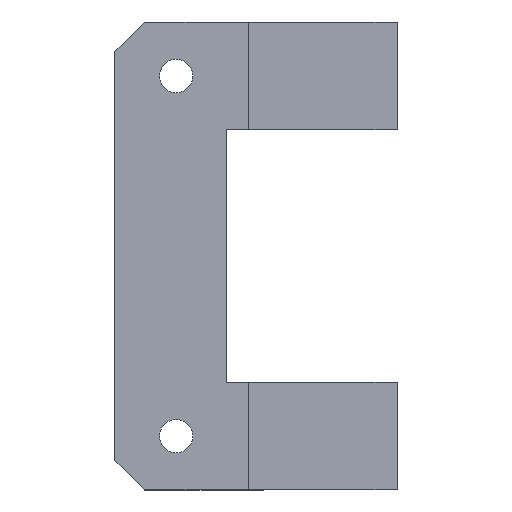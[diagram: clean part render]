
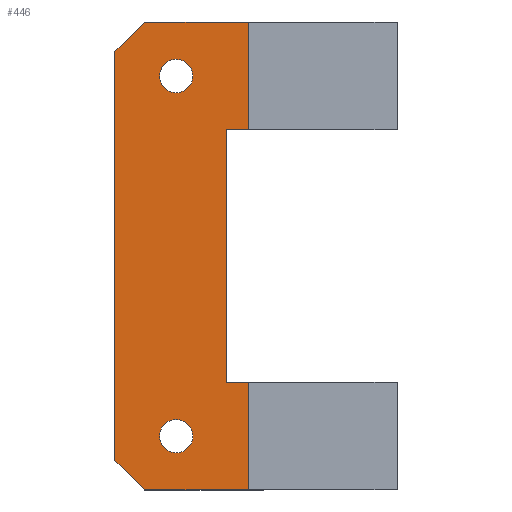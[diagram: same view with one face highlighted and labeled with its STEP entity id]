
A CAD part, top view. The second image highlights one B-rep face of the part: STEP entity #446.
In plain terms, the highlighted planar face has unit normal (0, 0, 1).
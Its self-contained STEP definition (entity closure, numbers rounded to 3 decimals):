
#17=FACE_BOUND('',#71,.T.);
#18=FACE_BOUND('',#72,.T.);
#20=CIRCLE('',#466,114.3);
#22=CIRCLE('',#479,114.3);
#46=FACE_OUTER_BOUND('',#70,.T.);
#70=EDGE_LOOP('',(#393,#394,#395,#396,#397,#398,#399,#400,#401,#402));
#71=EDGE_LOOP('',(#403));
#72=EDGE_LOOP('',(#404));
#75=LINE('',#605,#131);
#77=LINE('',#610,#133);
#87=LINE('',#629,#143);
#91=LINE('',#641,#147);
#100=LINE('',#659,#156);
#108=LINE('',#674,#164);
#109=LINE('',#678,#165);
#113=LINE('',#686,#169);
#123=LINE('',#708,#179);
#128=LINE('',#718,#184);
#131=VECTOR('',#493,25.4);
#133=VECTOR('',#497,25.4);
#143=VECTOR('',#509,25.4);
#147=VECTOR('',#521,25.4);
#156=VECTOR('',#540,25.4);
#164=VECTOR('',#550,25.4);
#165=VECTOR('',#553,25.4);
#169=VECTOR('',#559,25.4);
#179=VECTOR('',#579,25.4);
#184=VECTOR('',#594,25.4);
#187=VERTEX_POINT('',#602);
#188=VERTEX_POINT('',#604);
#189=VERTEX_POINT('',#608);
#190=VERTEX_POINT('',#609);
#198=VERTEX_POINT('',#627);
#200=VERTEX_POINT('',#633);
#202=VERTEX_POINT('',#639);
#212=VERTEX_POINT('',#672);
#213=VERTEX_POINT('',#676);
#214=VERTEX_POINT('',#677);
#217=VERTEX_POINT('',#685);
#224=VERTEX_POINT('',#704);
#227=EDGE_CURVE('',#188,#187,#75,.T.);
#229=EDGE_CURVE('',#189,#190,#77,.T.);
#239=EDGE_CURVE('',#189,#198,#87,.T.);
#242=EDGE_CURVE('',#200,#200,#20,.T.);
#245=EDGE_CURVE('',#202,#198,#91,.T.);
#254=EDGE_CURVE('',#188,#202,#100,.T.);
#262=EDGE_CURVE('',#187,#212,#108,.T.);
#263=EDGE_CURVE('',#213,#214,#109,.T.);
#267=EDGE_CURVE('',#213,#217,#113,.T.);
#278=EDGE_CURVE('',#224,#224,#22,.T.);
#279=EDGE_CURVE('',#212,#217,#123,.T.);
#284=EDGE_CURVE('',#190,#214,#128,.T.);
#393=ORIENTED_EDGE('',*,*,#263,.T.);
#394=ORIENTED_EDGE('',*,*,#284,.F.);
#395=ORIENTED_EDGE('',*,*,#229,.F.);
#396=ORIENTED_EDGE('',*,*,#239,.T.);
#397=ORIENTED_EDGE('',*,*,#245,.F.);
#398=ORIENTED_EDGE('',*,*,#254,.F.);
#399=ORIENTED_EDGE('',*,*,#227,.T.);
#400=ORIENTED_EDGE('',*,*,#262,.T.);
#401=ORIENTED_EDGE('',*,*,#279,.T.);
#402=ORIENTED_EDGE('',*,*,#267,.F.);
#403=ORIENTED_EDGE('',*,*,#242,.T.);
#404=ORIENTED_EDGE('',*,*,#278,.F.);
#424=PLANE('',#486);
#446=ADVANCED_FACE('',(#46,#17,#18),#424,.F.);
#466=AXIS2_PLACEMENT_3D('',#635,#515,#516);
#479=AXIS2_PLACEMENT_3D('',#706,#575,#576);
#486=AXIS2_PLACEMENT_3D('',#719,#595,#596);
#493=DIRECTION('',(0.,1.,0.));
#497=DIRECTION('',(-0.707,0.707,0.));
#509=DIRECTION('',(1.,0.,0.));
#515=DIRECTION('center_axis',(0.,0.,-1.));
#516=DIRECTION('ref_axis',(1.,0.,0.));
#521=DIRECTION('',(0.,-1.,0.));
#540=DIRECTION('',(1.,0.,0.));
#550=DIRECTION('',(1.,0.,0.));
#553=DIRECTION('',(-0.707,-0.707,0.));
#559=DIRECTION('',(1.,0.,0.));
#575=DIRECTION('center_axis',(0.,0.,1.));
#576=DIRECTION('ref_axis',(1.,0.,0.));
#579=DIRECTION('',(0.,1.,0.));
#594=DIRECTION('',(0.,1.,0.));
#595=DIRECTION('center_axis',(0.,0.,-1.));
#596=DIRECTION('ref_axis',(1.,0.,0.));
#602=CARTESIAN_POINT('',(-1118.894,1727.2,-855.664));
#604=CARTESIAN_POINT('',(-1118.894,0.,-855.664));
#605=CARTESIAN_POINT('',(-1118.894,863.6,-855.664));
#608=CARTESIAN_POINT('',(-1677.694,-736.6,-855.664));
#609=CARTESIAN_POINT('',(-1880.894,-533.4,-855.664));
#610=CARTESIAN_POINT('',(-1963.444,-450.85,-855.664));
#627=CARTESIAN_POINT('',(-966.494,-736.6,-855.664));
#629=CARTESIAN_POINT('',(-1880.894,-736.6,-855.664));
#633=CARTESIAN_POINT('',(-1576.094,-368.3,-855.664));
#635=CARTESIAN_POINT('Origin',(-1461.794,-368.3,-855.664));
#639=CARTESIAN_POINT('',(-966.494,0.,-855.664));
#641=CARTESIAN_POINT('',(-966.494,0.,-855.664));
#659=CARTESIAN_POINT('',(-1880.894,0.,-855.664));
#672=CARTESIAN_POINT('',(-966.494,1727.2,-855.664));
#674=CARTESIAN_POINT('',(-1880.894,1727.2,-855.664));
#676=CARTESIAN_POINT('',(-1677.694,2463.8,-855.664));
#677=CARTESIAN_POINT('',(-1880.894,2260.6,-855.664));
#678=CARTESIAN_POINT('',(-1963.444,2178.05,-855.664));
#685=CARTESIAN_POINT('',(-966.494,2463.8,-855.664));
#686=CARTESIAN_POINT('',(-1880.894,2463.8,-855.664));
#704=CARTESIAN_POINT('',(-1576.094,2095.5,-855.664));
#706=CARTESIAN_POINT('Origin',(-1461.794,2095.5,-855.664));
#708=CARTESIAN_POINT('',(-966.494,1727.2,-855.664));
#718=CARTESIAN_POINT('',(-1880.894,1727.2,-855.664));
#719=CARTESIAN_POINT('Origin',(-1880.894,1727.2,-855.664));
